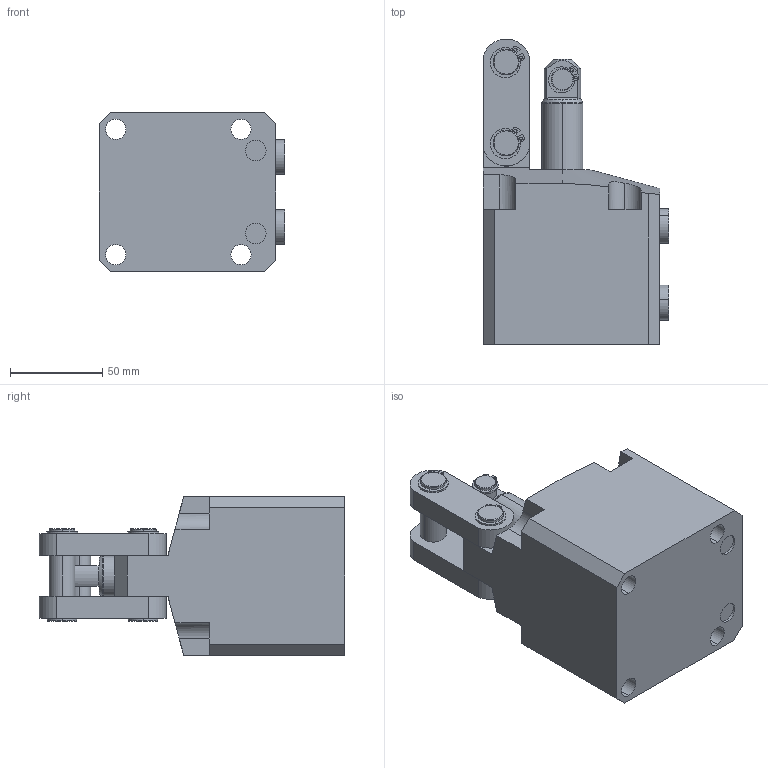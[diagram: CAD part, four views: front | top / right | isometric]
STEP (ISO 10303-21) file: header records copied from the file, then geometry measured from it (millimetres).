
FILE_DESCRIPTION(/* description */ (''),/* implementation_level */ '2;1');
FILE_NAME(/* name */ 'BPC16-F.stp',/* time_stamp */ '2025-01-05T09:59:32+08:00',/* author */ (''),/* organization */ (''),/* preprocessor_version */ 'ST-DEVELOPER v16.7',/* originating_system */ 'SIEMENS PLM Software NX 12.0',/* authorisation */ '');
FILE_SCHEMA (('AUTOMOTIVE_DESIGN { 1 0 10303 214 3 1 1 1 }'));
Length unit declared in the file: millimetre
Products named in the file (5): BPC16-F-02; BPC16-F-01; BPC16-F-04; BPC16-F-03; BPC16-F_stp
Assembly tree (5 placements, depth 2):
  BPC16-F_stp
    BPC16-F-03
    BPC16-F-04  x2
    BPC16-F-01
    BPC16-F-02
Bounding box: 100.8 x 165.95 x 86 mm (x, y, z)
Volume: 765370.2 mm3; surface area: 85211.2 mm2
Topology: 5 solids, 5 shells, 247 faces, 593 edges, 380 vertices
Faces by surface type: cylinder 110, plane 100, torus 20, cone 17
Entity records: 6903 total; most frequent: CARTESIAN_POINT 1282, DIRECTION 1233, ORIENTED_EDGE 1094, EDGE_CURVE 547, AXIS2_PLACEMENT_3D 483, VERTEX_POINT 352, LINE 267, VECTOR 267
